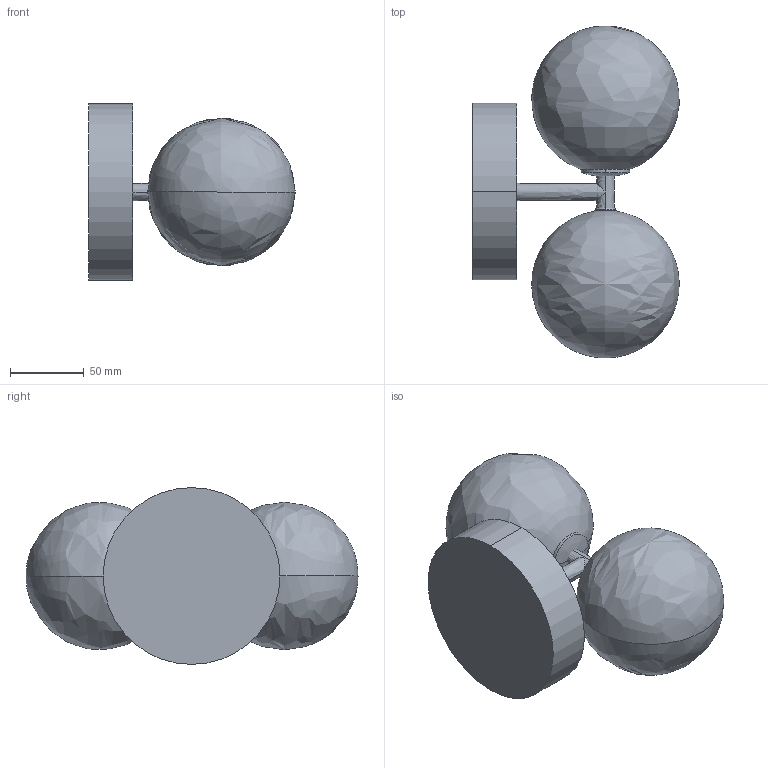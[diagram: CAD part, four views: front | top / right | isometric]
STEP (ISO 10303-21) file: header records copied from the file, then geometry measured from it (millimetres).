
FILE_DESCRIPTION (( 'STEP AP214' ), '1' );
FILE_NAME ('DALT_AU1280.STEP', '2026-06-05T07:41:36', ( '' ), ( '' ), 'SwSTEP 2.0', 'SolidWorks 2023', '' );
FILE_SCHEMA (( 'AUTOMOTIVE_DESIGN' ));
Length unit declared in the file: inch
Products named in the file (1): DALT_AU1280
Bounding box: 139.96 x 225.04 x 119.89 mm (x, y, z)
Volume: 1861125.5 mm3; surface area: 129756 mm2
Topology: 6 solids, 6 shells, 35 faces, 80 edges, 46 vertices
Faces by surface type: bspline 31, cylinder 2, plane 2
Entity records: 1717 total; most frequent: CARTESIAN_POINT 1177, ORIENTED_EDGE 136, EDGE_CURVE 68, VERTEX_POINT 46, EDGE_LOOP 36, ADVANCED_FACE 35, FACE_OUTER_BOUND 35, B_SPLINE_CURVE_WITH_KNOTS 30
